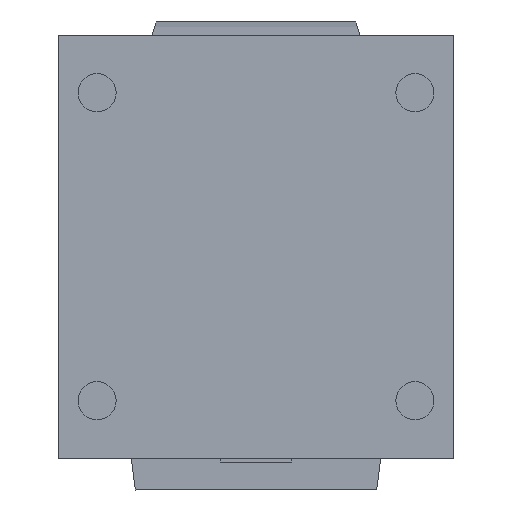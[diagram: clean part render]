
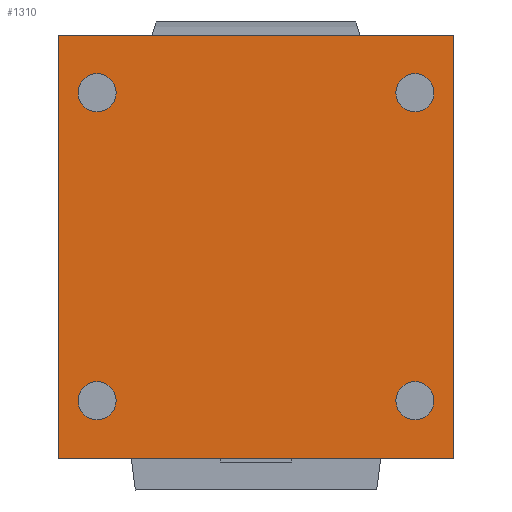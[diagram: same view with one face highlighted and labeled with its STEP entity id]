
A CAD part, front view. The second image highlights one B-rep face of the part: STEP entity #1310.
In plain terms, the highlighted planar face has unit normal (0, -1, 0).
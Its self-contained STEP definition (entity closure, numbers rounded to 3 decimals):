
#46=FACE_BOUND('',#243,.T.);
#47=FACE_BOUND('',#244,.T.);
#48=FACE_BOUND('',#245,.T.);
#49=FACE_BOUND('',#246,.T.);
#96=PLANE('',#1459);
#162=FACE_OUTER_BOUND('',#242,.T.);
#242=EDGE_LOOP('',(#1121,#1122,#1123,#1124));
#243=EDGE_LOOP('',(#1125));
#244=EDGE_LOOP('',(#1126));
#245=EDGE_LOOP('',(#1127));
#246=EDGE_LOOP('',(#1128));
#362=LINE('',#2143,#500);
#363=LINE('',#2145,#501);
#364=LINE('',#2147,#502);
#365=LINE('',#2148,#503);
#500=VECTOR('',#1761,10.);
#501=VECTOR('',#1762,10.);
#502=VECTOR('',#1763,10.);
#503=VECTOR('',#1764,10.);
#573=CIRCLE('',#1460,9.59);
#574=CIRCLE('',#1461,9.59);
#575=CIRCLE('',#1462,9.59);
#576=CIRCLE('',#1463,9.59);
#665=VERTEX_POINT('',#2141);
#666=VERTEX_POINT('',#2142);
#667=VERTEX_POINT('',#2144);
#668=VERTEX_POINT('',#2146);
#669=VERTEX_POINT('',#2149);
#670=VERTEX_POINT('',#2151);
#671=VERTEX_POINT('',#2153);
#672=VERTEX_POINT('',#2155);
#824=EDGE_CURVE('',#665,#666,#362,.T.);
#825=EDGE_CURVE('',#666,#667,#363,.T.);
#826=EDGE_CURVE('',#667,#668,#364,.T.);
#827=EDGE_CURVE('',#668,#665,#365,.T.);
#828=EDGE_CURVE('',#669,#669,#573,.T.);
#829=EDGE_CURVE('',#670,#670,#574,.T.);
#830=EDGE_CURVE('',#671,#671,#575,.T.);
#831=EDGE_CURVE('',#672,#672,#576,.T.);
#1121=ORIENTED_EDGE('',*,*,#824,.T.);
#1122=ORIENTED_EDGE('',*,*,#825,.T.);
#1123=ORIENTED_EDGE('',*,*,#826,.T.);
#1124=ORIENTED_EDGE('',*,*,#827,.T.);
#1125=ORIENTED_EDGE('',*,*,#828,.F.);
#1126=ORIENTED_EDGE('',*,*,#829,.F.);
#1127=ORIENTED_EDGE('',*,*,#830,.F.);
#1128=ORIENTED_EDGE('',*,*,#831,.F.);
#1310=ADVANCED_FACE('',(#162,#46,#47,#48,#49),#96,.T.);
#1459=AXIS2_PLACEMENT_3D('',#2140,#1759,#1760);
#1460=AXIS2_PLACEMENT_3D('',#2150,#1765,#1766);
#1461=AXIS2_PLACEMENT_3D('',#2152,#1767,#1768);
#1462=AXIS2_PLACEMENT_3D('',#2154,#1769,#1770);
#1463=AXIS2_PLACEMENT_3D('',#2156,#1771,#1772);
#1759=DIRECTION('center_axis',(0.,-1.,0.));
#1760=DIRECTION('ref_axis',(1.,0.,0.));
#1761=DIRECTION('',(-1.,0.,0.));
#1762=DIRECTION('',(0.,0.,-1.));
#1763=DIRECTION('',(1.,0.,0.));
#1764=DIRECTION('',(0.,0.,1.));
#1765=DIRECTION('center_axis',(0.,-1.,0.));
#1766=DIRECTION('ref_axis',(1.,0.,0.));
#1767=DIRECTION('center_axis',(0.,-1.,0.));
#1768=DIRECTION('ref_axis',(1.,0.,0.));
#1769=DIRECTION('center_axis',(0.,-1.,0.));
#1770=DIRECTION('ref_axis',(1.,0.,0.));
#1771=DIRECTION('center_axis',(0.,-1.,0.));
#1772=DIRECTION('ref_axis',(1.,0.,0.));
#2140=CARTESIAN_POINT('Origin',(0.,-9.239,0.));
#2141=CARTESIAN_POINT('',(99.5,-9.239,106.5));
#2142=CARTESIAN_POINT('',(-99.5,-9.239,106.5));
#2143=CARTESIAN_POINT('',(0.,-9.239,106.5));
#2144=CARTESIAN_POINT('',(-99.5,-9.239,-106.5));
#2145=CARTESIAN_POINT('',(-99.5,-9.239,0.));
#2146=CARTESIAN_POINT('',(99.5,-9.239,-106.5));
#2147=CARTESIAN_POINT('',(0.,-9.239,-106.5));
#2148=CARTESIAN_POINT('',(99.5,-9.239,0.));
#2149=CARTESIAN_POINT('',(-89.59,-9.239,77.5));
#2150=CARTESIAN_POINT('Origin',(-80.,-9.239,77.5));
#2151=CARTESIAN_POINT('',(70.41,-9.239,77.5));
#2152=CARTESIAN_POINT('Origin',(80.,-9.239,77.5));
#2153=CARTESIAN_POINT('',(-89.59,-9.239,-77.5));
#2154=CARTESIAN_POINT('Origin',(-80.,-9.239,-77.5));
#2155=CARTESIAN_POINT('',(70.41,-9.239,-77.5));
#2156=CARTESIAN_POINT('Origin',(80.,-9.239,-77.5));
